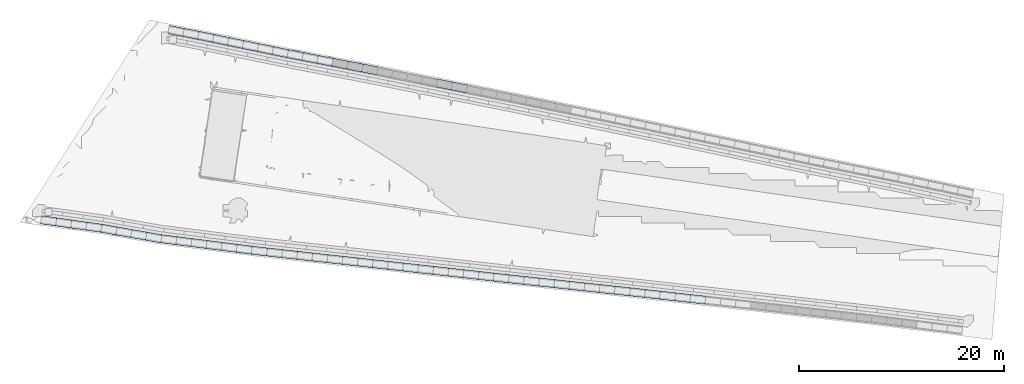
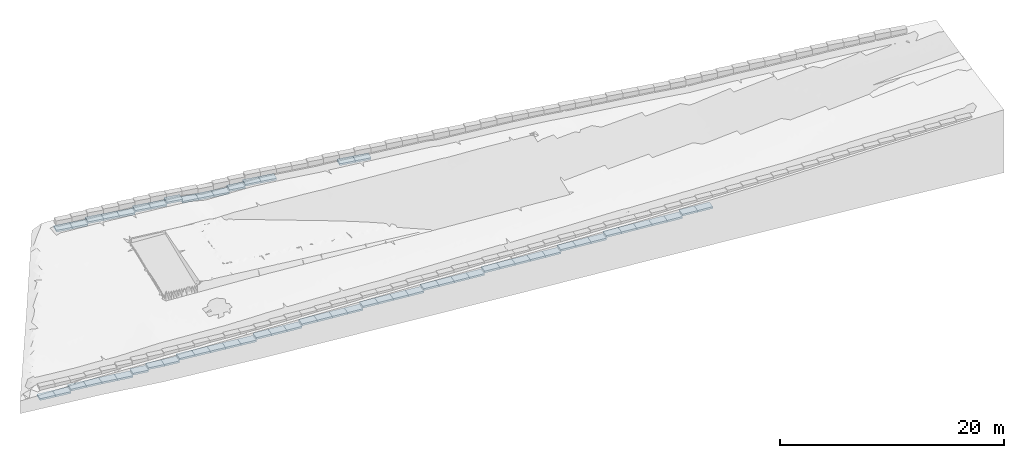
# Not in any storey, part 1 of 7: 60 footings.
"""IFC4 model written with IfcOpenShell, lengths in metres."""

from ifc_helpers import new_model, si_unit, direction, frame, origin_with_axes, place, context, subcontext, project, spatial, polyline, outline, extrude, material, element, save


model = new_model("IFC4")

# Units and contexts
model_context = context("Model", 3, precision=1e-05, world=origin_with_axes(), true_north=direction((0.0, 1.0)))
body_context = subcontext(model_context, "Body", "Model", "MODEL_VIEW")
ifc_project = project(units=[si_unit("VOLUMEUNIT", "CUBIC_METRE"), si_unit("LENGTHUNIT", "METRE"), si_unit("AREAUNIT", "SQUARE_METRE")], contexts=[model_context])

# Site
site_placement = place(None, origin_with_axes())
site = spatial("IfcSite", under=ifc_project, at=site_placement, Name="Lares · Rua das Mercês · artigo 4771")

# Footings
ifc_material = material(Name="Betão armado / Stahlbeton", Category="concrete")
footing_1_placement = place(site_placement, frame((0.0, 0.0, 12.55), z_axis=(0.0, 0.0, 1.0), x_axis=(1.0, -1.03767253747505e-17, 0.0)))
element("IfcFooting", 1, at=footing_1_placement, inside=site, material=ifc_material, Name="Limite north · base 01", PredefinedType="STRIP_FOOTING", context=body_context, shape_type="SweptSolid", body=[
    extrude(outline(polyline([(3.91251872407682, 23.8101235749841), (3.75898388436, 23.0249948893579), (2.30399909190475, 23.3095225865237), (2.45753393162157, 24.0946512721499), (3.91251872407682, 23.8101235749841)])), origin_with_axes(), (0.0, 0.0, 1.0), 0.2),
])
footing_2_placement = place(site_placement, frame((0.0, 0.0, 12.55), z_axis=(0.0, 0.0, 1.0), x_axis=(1.0, -1.03767253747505e-17, 0.0)))
element("IfcFooting", 2, at=footing_2_placement, inside=site, material=ifc_material, Name="Limite north · base 02", PredefinedType="STRIP_FOOTING", context=body_context, shape_type="SweptSolid", body=[
    extrude(outline(polyline([(5.36750351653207, 23.5255958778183), (5.21396867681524, 22.7404671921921), (3.75898388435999, 23.0249948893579), (3.91251872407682, 23.8101235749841), (5.36750351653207, 23.5255958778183)])), origin_with_axes(), (0.0, 0.0, 1.0), 0.2),
])
footing_3_placement = place(site_placement, frame((0.0, 0.0, 12.8), z_axis=(0.0, 0.0, 1.0), x_axis=(1.0, -1.03767253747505e-17, 0.0)))
element("IfcFooting", 3, at=footing_3_placement, inside=site, material=ifc_material, Name="Limite north · base 03", PredefinedType="STRIP_FOOTING", context=body_context, shape_type="SweptSolid", body=[
    extrude(outline(polyline([(5.83589335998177, 23.4340004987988), (5.83969890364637, 23.4332371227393), (6.82437533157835, 23.2307406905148), (6.66322940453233, 22.4471387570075), (5.68045389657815, 22.6492442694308), (5.21396867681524, 22.7404671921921), (5.36750351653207, 23.5255958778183), (5.83589335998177, 23.4340004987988)])), origin_with_axes(), (0.0, 0.0, 1.0), 0.2),
])
footing_4_placement = place(site_placement, frame((0.0, 0.0, 12.8), z_axis=(0.0, 0.0, 1.0), x_axis=(1.0, -1.03767253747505e-17, 0.0)))
element("IfcFooting", 4, at=footing_4_placement, inside=site, material=ifc_material, Name="Limite north · base 04", PredefinedType="STRIP_FOOTING", context=body_context, shape_type="SweptSolid", body=[
    extrude(outline(polyline([(8.27653077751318, 22.9321082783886), (8.11538485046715, 22.1485063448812), (6.66322940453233, 22.4471387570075), (6.82437533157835, 23.2307406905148), (8.27653077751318, 22.9321082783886)])), origin_with_axes(), (0.0, 0.0, 1.0), 0.2),
])
footing_5_placement = place(site_placement, frame((0.0, 0.0, 12.8), z_axis=(0.0, 0.0, 1.0), x_axis=(1.0, -1.03767253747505e-17, 0.0)))
element("IfcFooting", 5, at=footing_5_placement, inside=site, material=ifc_material, Name="Limite north · base 05", PredefinedType="STRIP_FOOTING", context=body_context, shape_type="SweptSolid", body=[
    extrude(outline(polyline([(9.728686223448, 22.6334758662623), (9.56754029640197, 21.849873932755), (8.11538485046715, 22.1485063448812), (8.27653077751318, 22.9321082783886), (9.728686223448, 22.6334758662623)])), origin_with_axes(), (0.0, 0.0, 1.0), 0.2),
])
footing_6_placement = place(site_placement, frame((0.0, 0.0, 13.05), z_axis=(0.0, 0.0, 1.0), x_axis=(1.0, -1.03767253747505e-17, 0.0)))
element("IfcFooting", 6, at=footing_6_placement, inside=site, material=ifc_material, Name="Limite north · base 06", PredefinedType="STRIP_FOOTING", context=body_context, shape_type="SweptSolid", body=[
    extrude(outline(polyline([(11.1808416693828, 22.3348434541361), (11.0196957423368, 21.5512415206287), (9.56754029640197, 21.849873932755), (9.728686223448, 22.6334758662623), (11.1808416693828, 22.3348434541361)])), origin_with_axes(), (0.0, 0.0, 1.0), 0.2),
])
footing_7_placement = place(site_placement, frame((0.0, 0.0, 13.05), z_axis=(0.0, 0.0, 1.0), x_axis=(1.0, -1.03767253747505e-17, 0.0)))
element("IfcFooting", 7, at=footing_7_placement, inside=site, material=ifc_material, Name="Limite north · base 07", PredefinedType="STRIP_FOOTING", context=body_context, shape_type="SweptSolid", body=[
    extrude(outline(polyline([(12.6329971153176, 22.0362110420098), (12.4718511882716, 21.2526091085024), (11.0196957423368, 21.5512415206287), (11.1808416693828, 22.3348434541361), (12.6329971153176, 22.0362110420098)])), origin_with_axes(), (0.0, 0.0, 1.0), 0.2),
])
footing_8_placement = place(site_placement, frame((0.0, 0.0, 13.3), z_axis=(0.0, 0.0, 1.0), x_axis=(1.0, -1.03767253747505e-17, 0.0)))
element("IfcFooting", 8, at=footing_8_placement, inside=site, material=ifc_material, Name="Limite north · base 08", PredefinedType="STRIP_FOOTING", context=body_context, shape_type="SweptSolid", body=[
    extrude(outline(polyline([(13.9723268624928, 21.76078097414), (14.0804053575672, 21.7399952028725), (13.9293173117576, 20.9543919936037), (13.8187211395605, 20.9756619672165), (13.8136921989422, 20.9766626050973), (12.4718511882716, 21.2526091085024), (12.6329971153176, 22.0362110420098), (13.9723268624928, 21.76078097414)])), origin_with_axes(), (0.0, 0.0, 1.0), 0.2),
])
footing_9_placement = place(site_placement, frame((0.0, 0.0, 13.05), z_axis=(0.0, 0.0, 1.0), x_axis=(1.0, -1.03767253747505e-17, 0.0)))
element("IfcFooting", 9, at=footing_9_placement, inside=site, material=ifc_material, Name="Limite north · base 09", PredefinedType="STRIP_FOOTING", context=body_context, shape_type="SweptSolid", body=[
    extrude(outline(polyline([(15.5362695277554, 21.4600018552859), (15.3851814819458, 20.6743986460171), (13.9293173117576, 20.9543919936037), (14.0804053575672, 21.7399952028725), (15.5362695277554, 21.4600018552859)])), origin_with_axes(), (0.0, 0.0, 1.0), 0.2),
])
footing_10_placement = place(site_placement, frame((0.0, 0.0, 13.05), z_axis=(0.0, 0.0, 1.0), x_axis=(1.0, -1.03767253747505e-17, 0.0)))
element("IfcFooting", 10, at=footing_10_placement, inside=site, material=ifc_material, Name="Limite north · base 10", PredefinedType="STRIP_FOOTING", context=body_context, shape_type="SweptSolid", body=[
    extrude(outline(polyline([(16.9921336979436, 21.1800085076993), (16.841045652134, 20.3944052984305), (15.3851814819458, 20.6743986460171), (15.5362695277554, 21.4600018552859), (16.9921336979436, 21.1800085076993)])), origin_with_axes(), (0.0, 0.0, 1.0), 0.2),
])
footing_11_placement = place(site_placement, frame((0.0, 0.0, 13.05), z_axis=(0.0, 0.0, 1.0), x_axis=(1.0, -1.03767253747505e-17, 0.0)))
element("IfcFooting", 11, at=footing_11_placement, inside=site, material=ifc_material, Name="Limite north · base 11", PredefinedType="STRIP_FOOTING", context=body_context, shape_type="SweptSolid", body=[
    extrude(outline(polyline([(18.4479978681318, 20.9000151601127), (18.2969098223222, 20.1144119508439), (16.841045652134, 20.3944052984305), (16.9921336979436, 21.1800085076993), (18.4479978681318, 20.9000151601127)])), origin_with_axes(), (0.0, 0.0, 1.0), 0.2),
])
footing_12_placement = place(site_placement, frame((0.0, 0.0, 13.3), z_axis=(0.0, 0.0, 1.0), x_axis=(1.0, -1.03767253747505e-17, 0.0)))
element("IfcFooting", 12, at=footing_12_placement, inside=site, material=ifc_material, Name="Limite north · base 12", PredefinedType="STRIP_FOOTING", context=body_context, shape_type="SweptSolid", body=[
    extrude(outline(polyline([(19.90386203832, 20.6200218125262), (19.7527739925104, 19.8344186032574), (18.2969098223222, 20.1144119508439), (18.4479978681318, 20.9000151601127), (19.90386203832, 20.6200218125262)])), origin_with_axes(), (0.0, 0.0, 1.0), 0.2),
])
footing_13_placement = place(site_placement, frame((0.0, 0.0, 13.55), z_axis=(0.0, 0.0, 1.0), x_axis=(1.0, -1.03767253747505e-17, 0.0)))
element("IfcFooting", 13, at=footing_13_placement, inside=site, material=ifc_material, Name="Limite north · base 13", PredefinedType="STRIP_FOOTING", context=body_context, shape_type="SweptSolid", body=[
    extrude(outline(polyline([(21.3597262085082, 20.3400284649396), (21.2086381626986, 19.5544252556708), (19.7527739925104, 19.8344186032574), (19.90386203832, 20.6200218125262), (21.3597262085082, 20.3400284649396)])), origin_with_axes(), (0.0, 0.0, 1.0), 0.2),
])
footing_14_placement = place(site_placement, frame((0.0, 0.0, 13.55), z_axis=(0.0, 0.0, 1.0), x_axis=(1.0, -1.03767253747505e-17, 0.0)))
element("IfcFooting", 14, at=footing_14_placement, inside=site, material=ifc_material, Name="Limite north · base 14", PredefinedType="STRIP_FOOTING", context=body_context, shape_type="SweptSolid", body=[
    extrude(outline(polyline([(22.0237974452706, 20.212313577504), (22.0276824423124, 20.2115464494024), (22.8179290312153, 20.0514367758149), (22.6590709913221, 19.2673678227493), (21.8707650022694, 19.4270843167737), (21.2086381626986, 19.5544252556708), (21.3597262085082, 20.3400284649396), (22.0237974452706, 20.212313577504)])), origin_with_axes(), (0.0, 0.0, 1.0), 0.2),
])
footing_15_placement = place(site_placement, frame((0.0, 0.0, 13.8), z_axis=(0.0, 0.0, 1.0), x_axis=(1.0, -1.03767253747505e-17, 0.0)))
element("IfcFooting", 15, at=footing_15_placement, inside=site, material=ifc_material, Name="Limite north · base 19", PredefinedType="STRIP_FOOTING", context=body_context, shape_type="SweptSolid", body=[
    extrude(outline(polyline([(30.0832415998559, 18.5865666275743), (29.9267249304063, 17.8020269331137), (28.4728316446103, 18.0920804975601), (28.62934831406, 18.8766201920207), (30.0832415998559, 18.5865666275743)])), origin_with_axes(), (0.0, 0.0, 1.0), 0.2),
])
footing_16_placement = place(site_placement, frame((0.0, 0.0, 13.8), z_axis=(0.0, 0.0, 1.0), x_axis=(1.0, -1.03767253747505e-17, 0.0)))
element("IfcFooting", 16, at=footing_16_placement, inside=site, material=ifc_material, Name="Limite north · base 20", PredefinedType="STRIP_FOOTING", context=body_context, shape_type="SweptSolid", body=[
    extrude(outline(polyline([(31.5371348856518, 18.296513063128), (31.3806182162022, 17.5119733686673), (29.9267249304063, 17.8020269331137), (30.0832415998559, 18.5865666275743), (31.5371348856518, 18.296513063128)])), origin_with_axes(), (0.0, 0.0, 1.0), 0.2),
])
footing_17_placement = place(site_placement, frame((0.0, 0.0, 9.8), z_axis=(0.0, 0.0, 1.0), x_axis=(1.0, -1.03767253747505e-17, 0.0)))
element("IfcFooting", 17, at=footing_17_placement, inside=site, material=ifc_material, Name="Limite south · base 01", PredefinedType="STRIP_FOOTING", context=body_context, shape_type="SweptSolid", body=[
    extrude(outline(polyline([(-8.52422396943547, 5.33421471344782), (-8.63569927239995, 4.5420194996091), (-10.1048103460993, 4.74874834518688), (-9.99333504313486, 5.5409435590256), (-8.52422396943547, 5.33421471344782)])), origin_with_axes(), (0.0, 0.0, 1.0), 0.2),
])
footing_18_placement = place(site_placement, frame((0.0, 0.0, 9.8), z_axis=(0.0, 0.0, 1.0), x_axis=(1.0, -1.03767253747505e-17, 0.0)))
element("IfcFooting", 18, at=footing_18_placement, inside=site, material=ifc_material, Name="Limite south · base 02", PredefinedType="STRIP_FOOTING", context=body_context, shape_type="SweptSolid", body=[
    extrude(outline(polyline([(-7.05511289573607, 5.12748586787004), (-7.16658819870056, 4.33529065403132), (-8.63569927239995, 4.5420194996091), (-8.52422396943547, 5.33421471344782), (-7.05511289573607, 5.12748586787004)])), origin_with_axes(), (0.0, 0.0, 1.0), 0.2),
])
footing_19_placement = place(site_placement, frame((0.0, 0.0, 10.05), z_axis=(0.0, 0.0, 1.0), x_axis=(1.0, -1.03767253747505e-17, 0.0)))
element("IfcFooting", 19, at=footing_19_placement, inside=site, material=ifc_material, Name="Limite south · base 03", PredefinedType="STRIP_FOOTING", context=body_context, shape_type="SweptSolid", body=[
    extrude(outline(polyline([(-5.58600182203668, 4.92075702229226), (-5.69747712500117, 4.12856180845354), (-7.16658819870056, 4.33529065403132), (-7.05511289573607, 5.12748586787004), (-5.58600182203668, 4.92075702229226)])), origin_with_axes(), (0.0, 0.0, 1.0), 0.2),
])
footing_20_placement = place(site_placement, frame((0.0, 0.0, 10.05), z_axis=(0.0, 0.0, 1.0), x_axis=(1.0, -1.03767253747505e-17, 0.0)))
element("IfcFooting", 20, at=footing_20_placement, inside=site, material=ifc_material, Name="Limite south · base 04", PredefinedType="STRIP_FOOTING", context=body_context, shape_type="SweptSolid", body=[
    extrude(outline(polyline([(-4.11689074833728, 4.71402817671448), (-4.22836605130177, 3.92183296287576), (-5.69747712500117, 4.12856180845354), (-5.58600182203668, 4.92075702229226), (-4.11689074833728, 4.71402817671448)])), origin_with_axes(), (0.0, 0.0, 1.0), 0.2),
])
footing_21_placement = place(site_placement, frame((0.0, 0.0, 10.05), z_axis=(0.0, 0.0, 1.0), x_axis=(1.0, -1.03767253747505e-17, 0.0)))
element("IfcFooting", 21, at=footing_21_placement, inside=site, material=ifc_material, Name="Limite south · base 05", PredefinedType="STRIP_FOOTING", context=body_context, shape_type="SweptSolid", body=[
    extrude(outline(polyline([(-4.22767204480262, 3.92676489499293), (-4.11689074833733, 4.71402817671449), (-4.11449838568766, 4.71369153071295), (-4.1006826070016, 4.71150041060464), (-2.64207744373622, 4.45394945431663), (-2.78118430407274, 3.66613648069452), (-4.23978946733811, 3.92368743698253), (-4.23893078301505, 3.92855048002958), (-4.22767204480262, 3.92676489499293)])), origin_with_axes(), (0.0, 0.0, 1.0), 0.2),
])
footing_22_placement = place(site_placement, frame((0.0, 0.0, 10.05), z_axis=(0.0, 0.0, 1.0), x_axis=(1.0, -1.03767253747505e-17, 0.0)))
element("IfcFooting", 22, at=footing_22_placement, inside=site, material=ifc_material, Name="Limite south · base 06", PredefinedType="STRIP_FOOTING", context=body_context, shape_type="SweptSolid", body=[
    extrude(outline(polyline([(-1.18109315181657, 4.19597840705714), (-1.32020001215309, 3.40816543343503), (-2.78118430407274, 3.66613648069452), (-2.64207744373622, 4.45394945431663), (-1.18109315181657, 4.19597840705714)])), origin_with_axes(), (0.0, 0.0, 1.0), 0.2),
])
footing_23_placement = place(site_placement, frame((0.0, 0.0, 10.3), z_axis=(0.0, 0.0, 1.0), x_axis=(1.0, -1.03767253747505e-17, 0.0)))
element("IfcFooting", 23, at=footing_23_placement, inside=site, material=ifc_material, Name="Limite south · base 07", PredefinedType="STRIP_FOOTING", context=body_context, shape_type="SweptSolid", body=[
    extrude(outline(polyline([(0.279891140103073, 3.93800735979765), (0.140784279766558, 3.15019438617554), (-1.32020001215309, 3.40816543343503), (-1.18109315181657, 4.19597840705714), (0.279891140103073, 3.93800735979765)])), origin_with_axes(), (0.0, 0.0, 1.0), 0.2),
])
footing_24_placement = place(site_placement, frame((0.0, 0.0, 10.55), z_axis=(0.0, 0.0, 1.0), x_axis=(1.0, -1.03767253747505e-17, 0.0)))
element("IfcFooting", 24, at=footing_24_placement, inside=site, material=ifc_material, Name="Limite south · base 08", PredefinedType="STRIP_FOOTING", context=body_context, shape_type="SweptSolid", body=[
    extrude(outline(polyline([(1.60424499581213, 3.70416162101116), (1.72250985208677, 3.68918759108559), (1.62202063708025, 2.89552398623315), (1.49406565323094, 2.91172492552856), (1.47475683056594, 2.91465024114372), (0.140784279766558, 3.15019438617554), (0.279891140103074, 3.93800735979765), (1.60424499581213, 3.70416162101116)])), origin_with_axes(), (0.0, 0.0, 1.0), 0.2),
])
footing_25_placement = place(site_placement, frame((0.0, 0.0, 10.55), z_axis=(0.0, 0.0, 1.0), x_axis=(1.0, -1.03767253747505e-17, 0.0)))
element("IfcFooting", 25, at=footing_25_placement, inside=site, material=ifc_material, Name="Limite south · base 09", PredefinedType="STRIP_FOOTING", context=body_context, shape_type="SweptSolid", body=[
    extrude(outline(polyline([(3.19434402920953, 3.50283223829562), (3.09385481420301, 2.70916863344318), (1.62202063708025, 2.89552398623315), (1.72250985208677, 3.68918759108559), (3.19434402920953, 3.50283223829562)])), origin_with_axes(), (0.0, 0.0, 1.0), 0.2),
])
footing_26_placement = place(site_placement, frame((0.0, 0.0, 10.8), z_axis=(0.0, 0.0, 1.0), x_axis=(1.0, -1.03767253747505e-17, 0.0)))
element("IfcFooting", 26, at=footing_26_placement, inside=site, material=ifc_material, Name="Limite south · base 10", PredefinedType="STRIP_FOOTING", context=body_context, shape_type="SweptSolid", body=[
    extrude(outline(polyline([(4.66617820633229, 3.31647688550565), (4.56568899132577, 2.5228132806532), (3.09385481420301, 2.70916863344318), (3.19434402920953, 3.50283223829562), (4.66617820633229, 3.31647688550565)])), origin_with_axes(), (0.0, 0.0, 1.0), 0.2),
])
footing_27_placement = place(site_placement, frame((0.0, 0.0, 10.8), z_axis=(0.0, 0.0, 1.0), x_axis=(1.0, -1.03767253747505e-17, 0.0)))
element("IfcFooting", 27, at=footing_27_placement, inside=site, material=ifc_material, Name="Limite south · base 11", PredefinedType="STRIP_FOOTING", context=body_context, shape_type="SweptSolid", body=[
    extrude(outline(polyline([(6.13801238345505, 3.13012153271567), (6.03752316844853, 2.33645792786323), (4.56568899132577, 2.5228132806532), (4.66617820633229, 3.31647688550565), (6.13801238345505, 3.13012153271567)])), origin_with_axes(), (0.0, 0.0, 1.0), 0.2),
])
footing_28_placement = place(site_placement, frame((0.0, 0.0, 10.8), z_axis=(0.0, 0.0, 1.0), x_axis=(1.0, -1.03767253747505e-17, 0.0)))
element("IfcFooting", 28, at=footing_28_placement, inside=site, material=ifc_material, Name="Limite south · base 12", PredefinedType="STRIP_FOOTING", context=body_context, shape_type="SweptSolid", body=[
    extrude(outline(polyline([(7.60984656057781, 2.9437661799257), (7.50935734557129, 2.15010257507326), (6.03752316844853, 2.33645792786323), (6.13801238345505, 3.13012153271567), (7.60984656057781, 2.9437661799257)])), origin_with_axes(), (0.0, 0.0, 1.0), 0.2),
])
footing_29_placement = place(site_placement, frame((0.0, 0.0, 10.8), z_axis=(0.0, 0.0, 1.0), x_axis=(1.0, -1.03767253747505e-17, 0.0)))
element("IfcFooting", 29, at=footing_29_placement, inside=site, material=ifc_material, Name="Limite south · base 13", PredefinedType="STRIP_FOOTING", context=body_context, shape_type="SweptSolid", body=[
    extrude(outline(polyline([(9.08168073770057, 2.75741082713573), (8.98119152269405, 1.96374722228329), (7.50935734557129, 2.15010257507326), (7.60984656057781, 2.9437661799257), (9.08168073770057, 2.75741082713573)])), origin_with_axes(), (0.0, 0.0, 1.0), 0.2),
])
footing_30_placement = place(site_placement, frame((0.0, 0.0, 10.8), z_axis=(0.0, 0.0, 1.0), x_axis=(1.0, -1.03767253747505e-17, 0.0)))
element("IfcFooting", 30, at=footing_30_placement, inside=site, material=ifc_material, Name="Limite south · base 14", PredefinedType="STRIP_FOOTING", context=body_context, shape_type="SweptSolid", body=[
    extrude(outline(polyline([(10.5535149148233, 2.57105547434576), (10.4530256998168, 1.77739186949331), (8.98119152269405, 1.96374722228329), (9.08168073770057, 2.75741082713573), (10.5535149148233, 2.57105547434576)])), origin_with_axes(), (0.0, 0.0, 1.0), 0.2),
])
footing_31_placement = place(site_placement, frame((0.0, 0.0, 11.05), z_axis=(0.0, 0.0, 1.0), x_axis=(1.0, -1.03767253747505e-17, 0.0)))
element("IfcFooting", 31, at=footing_31_placement, inside=site, material=ifc_material, Name="Limite south · base 15", PredefinedType="STRIP_FOOTING", context=body_context, shape_type="SweptSolid", body=[
    extrude(outline(polyline([(11.1594256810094, 2.49433846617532), (12.0205889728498, 2.39939597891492), (11.9329208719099, 1.60421404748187), (11.0685492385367, 1.69951025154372), (11.0621386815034, 1.70026941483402), (10.4530256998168, 1.77739186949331), (10.5535149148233, 2.57105547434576), (11.1594256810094, 2.49433846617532)])), origin_with_axes(), (0.0, 0.0, 1.0), 0.2),
])
footing_32_placement = place(site_placement, frame((0.0, 0.0, 11.05), z_axis=(0.0, 0.0, 1.0), x_axis=(1.0, -1.03767253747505e-17, 0.0)))
element("IfcFooting", 32, at=footing_32_placement, inside=site, material=ifc_material, Name="Limite south · base 16", PredefinedType="STRIP_FOOTING", context=body_context, shape_type="SweptSolid", body=[
    extrude(outline(polyline([(13.4952388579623, 2.23681714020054), (13.4075707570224, 1.44163520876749), (11.9329208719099, 1.60421404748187), (12.0205889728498, 2.39939597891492), (13.4952388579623, 2.23681714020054)])), origin_with_axes(), (0.0, 0.0, 1.0), 0.2),
])
footing_33_placement = place(site_placement, frame((0.0, 0.0, 11.05), z_axis=(0.0, 0.0, 1.0), x_axis=(1.0, -1.03767253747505e-17, 0.0)))
element("IfcFooting", 33, at=footing_33_placement, inside=site, material=ifc_material, Name="Limite south · base 17", PredefinedType="STRIP_FOOTING", context=body_context, shape_type="SweptSolid", body=[
    extrude(outline(polyline([(14.9698887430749, 2.07423830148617), (14.882220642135, 1.27905637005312), (13.4075707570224, 1.44163520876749), (13.4952388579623, 2.23681714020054), (14.9698887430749, 2.07423830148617)])), origin_with_axes(), (0.0, 0.0, 1.0), 0.2),
])
footing_34_placement = place(site_placement, frame((0.0, 0.0, 11.3), z_axis=(0.0, 0.0, 1.0), x_axis=(1.0, -1.03767253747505e-17, 0.0)))
element("IfcFooting", 34, at=footing_34_placement, inside=site, material=ifc_material, Name="Limite south · base 18", PredefinedType="STRIP_FOOTING", context=body_context, shape_type="SweptSolid", body=[
    extrude(outline(polyline([(16.4445386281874, 1.91165946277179), (16.3568705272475, 1.11647753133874), (14.882220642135, 1.27905637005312), (14.9698887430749, 2.07423830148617), (16.4445386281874, 1.91165946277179)])), origin_with_axes(), (0.0, 0.0, 1.0), 0.2),
])
footing_35_placement = place(site_placement, frame((0.0, 0.0, 11.3), z_axis=(0.0, 0.0, 1.0), x_axis=(1.0, -1.03767253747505e-17, 0.0)))
element("IfcFooting", 35, at=footing_35_placement, inside=site, material=ifc_material, Name="Limite south · base 19", PredefinedType="STRIP_FOOTING", context=body_context, shape_type="SweptSolid", body=[
    extrude(outline(polyline([(17.9191885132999, 1.74908062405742), (17.83152041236, 0.95389869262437), (16.3568705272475, 1.11647753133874), (16.4445386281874, 1.91165946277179), (17.9191885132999, 1.74908062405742)])), origin_with_axes(), (0.0, 0.0, 1.0), 0.2),
])
footing_36_placement = place(site_placement, frame((0.0, 0.0, 11.3), z_axis=(0.0, 0.0, 1.0), x_axis=(1.0, -1.03767253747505e-17, 0.0)))
element("IfcFooting", 36, at=footing_36_placement, inside=site, material=ifc_material, Name="Limite south · base 20", PredefinedType="STRIP_FOOTING", context=body_context, shape_type="SweptSolid", body=[
    extrude(outline(polyline([(19.3938383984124, 1.58650178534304), (19.3061702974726, 0.791319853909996), (17.83152041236, 0.953898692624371), (17.9191885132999, 1.74908062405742), (19.3938383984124, 1.58650178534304)])), origin_with_axes(), (0.0, 0.0, 1.0), 0.2),
])
footing_37_placement = place(site_placement, frame((0.0, 0.0, 11.3), z_axis=(0.0, 0.0, 1.0), x_axis=(1.0, -1.03767253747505e-17, 0.0)))
element("IfcFooting", 37, at=footing_37_placement, inside=site, material=ifc_material, Name="Limite south · base 21", PredefinedType="STRIP_FOOTING", context=body_context, shape_type="SweptSolid", body=[
    extrude(outline(polyline([(20.868488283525, 1.42392294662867), (20.7808201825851, 0.628741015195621), (19.3061702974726, 0.791319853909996), (19.3938383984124, 1.58650178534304), (20.868488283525, 1.42392294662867)])), origin_with_axes(), (0.0, 0.0, 1.0), 0.2),
])
footing_38_placement = place(site_placement, frame((0.0, 0.0, 11.55), z_axis=(0.0, 0.0, 1.0), x_axis=(1.0, -1.03767253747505e-17, 0.0)))
element("IfcFooting", 38, at=footing_38_placement, inside=site, material=ifc_material, Name="Limite south · base 22", PredefinedType="STRIP_FOOTING", context=body_context, shape_type="SweptSolid", body=[
    extrude(outline(polyline([(22.3431381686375, 1.2613441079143), (22.2554700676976, 0.466162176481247), (20.7808201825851, 0.628741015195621), (20.868488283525, 1.42392294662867), (22.3431381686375, 1.2613441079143)])), origin_with_axes(), (0.0, 0.0, 1.0), 0.2),
])
footing_39_placement = place(site_placement, frame((0.0, 0.0, 11.55), z_axis=(0.0, 0.0, 1.0), x_axis=(1.0, -1.03767253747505e-17, 0.0)))
element("IfcFooting", 39, at=footing_39_placement, inside=site, material=ifc_material, Name="Limite south · base 23", PredefinedType="STRIP_FOOTING", context=body_context, shape_type="SweptSolid", body=[
    extrude(outline(polyline([(23.5522402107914, 1.12804168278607), (23.5527264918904, 1.12798776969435), (23.818238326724, 1.09838657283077), (23.729597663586, 0.303312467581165), (23.4643289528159, 0.33288655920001), (22.2554700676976, 0.466162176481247), (22.3431381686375, 1.2613441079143), (23.5522402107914, 1.12804168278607)])), origin_with_axes(), (0.0, 0.0, 1.0), 0.2),
])
footing_40_placement = place(site_placement, frame((0.0, 0.0, 11.55), z_axis=(0.0, 0.0, 1.0), x_axis=(1.0, -1.03767253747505e-17, 0.0)))
element("IfcFooting", 40, at=footing_40_placement, inside=site, material=ifc_material, Name="Limite south · base 24", PredefinedType="STRIP_FOOTING", context=body_context, shape_type="SweptSolid", body=[
    extrude(outline(polyline([(25.2926882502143, 0.934004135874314), (25.2040475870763, 0.138930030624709), (23.729597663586, 0.303312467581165), (23.818238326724, 1.09838657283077), (25.2926882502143, 0.934004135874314)])), origin_with_axes(), (0.0, 0.0, 1.0), 0.2),
])
footing_41_placement = place(site_placement, frame((0.0, 0.0, 11.55), z_axis=(0.0, 0.0, 1.0), x_axis=(1.0, -1.03767253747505e-17, 0.0)))
element("IfcFooting", 41, at=footing_41_placement, inside=site, material=ifc_material, Name="Limite south · base 25", PredefinedType="STRIP_FOOTING", context=body_context, shape_type="SweptSolid", body=[
    extrude(outline(polyline([(26.7671381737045, 0.769621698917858), (26.6784975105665, -0.0254524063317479), (25.2040475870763, 0.138930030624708), (25.2926882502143, 0.934004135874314), (26.7671381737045, 0.769621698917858)])), origin_with_axes(), (0.0, 0.0, 1.0), 0.2),
])
footing_42_placement = place(site_placement, frame((0.0, 0.0, 11.8), z_axis=(0.0, 0.0, 1.0), x_axis=(1.0, -1.03767253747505e-17, 0.0)))
element("IfcFooting", 42, at=footing_42_placement, inside=site, material=ifc_material, Name="Limite south · base 26", PredefinedType="STRIP_FOOTING", context=body_context, shape_type="SweptSolid", body=[
    extrude(outline(polyline([(28.2415880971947, 0.605239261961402), (28.1529474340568, -0.189834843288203), (26.6784975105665, -0.0254524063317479), (26.7671381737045, 0.769621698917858), (28.2415880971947, 0.605239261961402)])), origin_with_axes(), (0.0, 0.0, 1.0), 0.2),
])
footing_43_placement = place(site_placement, frame((0.0, 0.0, 11.8), z_axis=(0.0, 0.0, 1.0), x_axis=(1.0, -1.03767253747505e-17, 0.0)))
element("IfcFooting", 43, at=footing_43_placement, inside=site, material=ifc_material, Name="Limite south · base 27", PredefinedType="STRIP_FOOTING", context=body_context, shape_type="SweptSolid", body=[
    extrude(outline(polyline([(29.716038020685, 0.440856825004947), (29.627397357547, -0.354217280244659), (28.1529474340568, -0.189834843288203), (28.2415880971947, 0.605239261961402), (29.716038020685, 0.440856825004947)])), origin_with_axes(), (0.0, 0.0, 1.0), 0.2),
])
footing_44_placement = place(site_placement, frame((0.0, 0.0, 11.8), z_axis=(0.0, 0.0, 1.0), x_axis=(1.0, -1.03767253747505e-17, 0.0)))
element("IfcFooting", 44, at=footing_44_placement, inside=site, material=ifc_material, Name="Limite south · base 28", PredefinedType="STRIP_FOOTING", context=body_context, shape_type="SweptSolid", body=[
    extrude(outline(polyline([(31.1904879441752, 0.27647438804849), (31.1018472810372, -0.518599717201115), (29.627397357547, -0.354217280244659), (29.716038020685, 0.440856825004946), (31.1904879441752, 0.27647438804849)])), origin_with_axes(), (0.0, 0.0, 1.0), 0.2),
])
footing_45_placement = place(site_placement, frame((0.0, 0.0, 11.8), z_axis=(0.0, 0.0, 1.0), x_axis=(1.0, -1.03767253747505e-17, 0.0)))
element("IfcFooting", 45, at=footing_45_placement, inside=site, material=ifc_material, Name="Limite south · base 29", PredefinedType="STRIP_FOOTING", context=body_context, shape_type="SweptSolid", body=[
    extrude(outline(polyline([(32.6649378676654, 0.112091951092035), (32.5762972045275, -0.682982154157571), (31.1018472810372, -0.518599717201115), (31.1904879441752, 0.27647438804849), (32.6649378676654, 0.112091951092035)])), origin_with_axes(), (0.0, 0.0, 1.0), 0.2),
])
footing_46_placement = place(site_placement, frame((0.0, 0.0, 12.05), z_axis=(0.0, 0.0, 1.0), x_axis=(1.0, -1.03767253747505e-17, 0.0)))
element("IfcFooting", 46, at=footing_46_placement, inside=site, material=ifc_material, Name="Limite south · base 30", PredefinedType="STRIP_FOOTING", context=body_context, shape_type="SweptSolid", body=[
    extrude(outline(polyline([(34.1393877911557, -0.0522904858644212), (34.0507471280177, -0.847364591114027), (32.5762972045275, -0.682982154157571), (32.6649378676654, 0.112091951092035), (34.1393877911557, -0.0522904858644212)])), origin_with_axes(), (0.0, 0.0, 1.0), 0.2),
])
footing_47_placement = place(site_placement, frame((0.0, 0.0, 12.05), z_axis=(0.0, 0.0, 1.0), x_axis=(1.0, -1.03767253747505e-17, 0.0)))
element("IfcFooting", 47, at=footing_47_placement, inside=site, material=ifc_material, Name="Limite south · base 31", PredefinedType="STRIP_FOOTING", context=body_context, shape_type="SweptSolid", body=[
    extrude(outline(polyline([(35.2180401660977, -0.172546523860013), (35.6124711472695, -0.21498114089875), (35.5268974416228, -1.0103911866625), (35.1316995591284, -0.967874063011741), (35.1301660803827, -0.96770609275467), (34.0507471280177, -0.847364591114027), (34.1393877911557, -0.0522904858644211), (35.2180401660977, -0.172546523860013)])), origin_with_axes(), (0.0, 0.0, 1.0), 0.2),
])
footing_48_placement = place(site_placement, frame((0.0, 0.0, 12.05), z_axis=(0.0, 0.0, 1.0), x_axis=(1.0, -1.03767253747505e-17, 0.0)))
element("IfcFooting", 48, at=footing_48_placement, inside=site, material=ifc_material, Name="Limite south · base 32", PredefinedType="STRIP_FOOTING", context=body_context, shape_type="SweptSolid", body=[
    extrude(outline(polyline([(37.0875440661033, -0.373675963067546), (37.0019703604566, -1.16908600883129), (35.5268974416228, -1.0103911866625), (35.6124711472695, -0.21498114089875), (37.0875440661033, -0.373675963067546)])), origin_with_axes(), (0.0, 0.0, 1.0), 0.2),
])
footing_49_placement = place(site_placement, frame((0.0, 0.0, 12.05), z_axis=(0.0, 0.0, 1.0), x_axis=(1.0, -1.03767253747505e-17, 0.0)))
element("IfcFooting", 49, at=footing_49_placement, inside=site, material=ifc_material, Name="Limite south · base 33", PredefinedType="STRIP_FOOTING", context=body_context, shape_type="SweptSolid", body=[
    extrude(outline(polyline([(38.5626169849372, -0.532370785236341), (38.4770432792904, -1.32778083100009), (37.0019703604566, -1.16908600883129), (37.0875440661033, -0.373675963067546), (38.5626169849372, -0.532370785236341)])), origin_with_axes(), (0.0, 0.0, 1.0), 0.2),
])
footing_50_placement = place(site_placement, frame((0.0, 0.0, 12.05), z_axis=(0.0, 0.0, 1.0), x_axis=(1.0, -1.03767253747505e-17, 0.0)))
element("IfcFooting", 50, at=footing_50_placement, inside=site, material=ifc_material, Name="Limite south · base 34", PredefinedType="STRIP_FOOTING", context=body_context, shape_type="SweptSolid", body=[
    extrude(outline(polyline([(40.037689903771, -0.691065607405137), (39.9521161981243, -1.48647565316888), (38.4770432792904, -1.32778083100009), (38.5626169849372, -0.532370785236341), (40.037689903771, -0.691065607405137)])), origin_with_axes(), (0.0, 0.0, 1.0), 0.2),
])
footing_51_placement = place(site_placement, frame((0.0, 0.0, 12.3), z_axis=(0.0, 0.0, 1.0), x_axis=(1.0, -1.03767253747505e-17, 0.0)))
element("IfcFooting", 51, at=footing_51_placement, inside=site, material=ifc_material, Name="Limite south · base 35", PredefinedType="STRIP_FOOTING", context=body_context, shape_type="SweptSolid", body=[
    extrude(outline(polyline([(41.5127628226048, -0.849760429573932), (41.4271891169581, -1.64517047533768), (39.9521161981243, -1.48647565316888), (40.037689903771, -0.691065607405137), (41.5127628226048, -0.849760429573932)])), origin_with_axes(), (0.0, 0.0, 1.0), 0.2),
])
footing_52_placement = place(site_placement, frame((0.0, 0.0, 12.3), z_axis=(0.0, 0.0, 1.0), x_axis=(1.0, -1.03767253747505e-17, 0.0)))
element("IfcFooting", 52, at=footing_52_placement, inside=site, material=ifc_material, Name="Limite south · base 36", PredefinedType="STRIP_FOOTING", context=body_context, shape_type="SweptSolid", body=[
    extrude(outline(polyline([(42.9878357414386, -1.00845525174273), (42.9022620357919, -1.80386529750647), (41.4271891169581, -1.64517047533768), (41.5127628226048, -0.849760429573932), (42.9878357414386, -1.00845525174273)])), origin_with_axes(), (0.0, 0.0, 1.0), 0.2),
])
footing_53_placement = place(site_placement, frame((0.0, 0.0, 12.3), z_axis=(0.0, 0.0, 1.0), x_axis=(1.0, -1.03767253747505e-17, 0.0)))
element("IfcFooting", 53, at=footing_53_placement, inside=site, material=ifc_material, Name="Limite south · base 37", PredefinedType="STRIP_FOOTING", context=body_context, shape_type="SweptSolid", body=[
    extrude(outline(polyline([(44.4629086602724, -1.16715007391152), (44.3773349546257, -1.96256011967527), (42.9022620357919, -1.80386529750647), (42.9878357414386, -1.00845525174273), (44.4629086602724, -1.16715007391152)])), origin_with_axes(), (0.0, 0.0, 1.0), 0.2),
])
footing_54_placement = place(site_placement, frame((0.0, 0.0, 12.55), z_axis=(0.0, 0.0, 1.0), x_axis=(1.0, -1.03767253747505e-17, 0.0)))
element("IfcFooting", 54, at=footing_54_placement, inside=site, material=ifc_material, Name="Limite south · base 38", PredefinedType="STRIP_FOOTING", context=body_context, shape_type="SweptSolid", body=[
    extrude(outline(polyline([(45.9379815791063, -1.32584489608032), (45.8524078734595, -2.12125494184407), (44.3773349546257, -1.96256011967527), (44.4629086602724, -1.16715007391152), (45.9379815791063, -1.32584489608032)])), origin_with_axes(), (0.0, 0.0, 1.0), 0.2),
])
footing_55_placement = place(site_placement, frame((0.0, 0.0, 12.55), z_axis=(0.0, 0.0, 1.0), x_axis=(1.0, -1.03767253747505e-17, 0.0)))
element("IfcFooting", 55, at=footing_55_placement, inside=site, material=ifc_material, Name="Limite south · base 39", PredefinedType="STRIP_FOOTING", context=body_context, shape_type="SweptSolid", body=[
    extrude(outline(polyline([(47.2207516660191, -1.46385093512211), (47.2221083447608, -1.46399923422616), (47.4143394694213, -1.48534401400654), (47.3260524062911, -2.2804574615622), (47.1344994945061, -2.25918798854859), (45.8524078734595, -2.12125494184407), (45.9379815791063, -1.32584489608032), (47.2207516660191, -1.46385093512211)])), origin_with_axes(), (0.0, 0.0, 1.0), 0.2),
])
footing_56_placement = place(site_placement, frame((0.0, 0.0, 12.55), z_axis=(0.0, 0.0, 1.0), x_axis=(1.0, -1.03767253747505e-17, 0.0)))
element("IfcFooting", 56, at=footing_56_placement, inside=site, material=ifc_material, Name="Limite south · base 40", PredefinedType="STRIP_FOOTING", context=body_context, shape_type="SweptSolid", body=[
    extrude(outline(polyline([(48.8888623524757, -1.64907070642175), (48.8005752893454, -2.44418415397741), (47.3260524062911, -2.2804574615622), (47.4143394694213, -1.48534401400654), (48.8888623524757, -1.64907070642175)])), origin_with_axes(), (0.0, 0.0, 1.0), 0.2),
])
footing_57_placement = place(site_placement, frame((0.0, 0.0, 12.55), z_axis=(0.0, 0.0, 1.0), x_axis=(1.0, -1.03767253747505e-17, 0.0)))
element("IfcFooting", 57, at=footing_57_placement, inside=site, material=ifc_material, Name="Limite south · base 41", PredefinedType="STRIP_FOOTING", context=body_context, shape_type="SweptSolid", body=[
    extrude(outline(polyline([(50.36338523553, -1.81279739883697), (50.2750981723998, -2.60791084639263), (48.8005752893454, -2.44418415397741), (48.8888623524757, -1.64907070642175), (50.36338523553, -1.81279739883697)])), origin_with_axes(), (0.0, 0.0, 1.0), 0.2),
])
footing_58_placement = place(site_placement, frame((0.0, 0.0, 12.55), z_axis=(0.0, 0.0, 1.0), x_axis=(1.0, -1.03767253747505e-17, 0.0)))
element("IfcFooting", 58, at=footing_58_placement, inside=site, material=ifc_material, Name="Limite south · base 42", PredefinedType="STRIP_FOOTING", context=body_context, shape_type="SweptSolid", body=[
    extrude(outline(polyline([(51.8379081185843, -1.97652409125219), (51.7496210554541, -2.77163753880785), (50.2750981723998, -2.60791084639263), (50.36338523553, -1.81279739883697), (51.8379081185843, -1.97652409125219)])), origin_with_axes(), (0.0, 0.0, 1.0), 0.2),
])
footing_59_placement = place(site_placement, frame((0.0, 0.0, 12.8), z_axis=(0.0, 0.0, 1.0), x_axis=(1.0, -1.03767253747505e-17, 0.0)))
element("IfcFooting", 59, at=footing_59_placement, inside=site, material=ifc_material, Name="Limite south · base 43", PredefinedType="STRIP_FOOTING", context=body_context, shape_type="SweptSolid", body=[
    extrude(outline(polyline([(53.3124310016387, -2.1402507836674), (53.2241439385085, -2.93536423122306), (51.7496210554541, -2.77163753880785), (51.8379081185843, -1.97652409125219), (53.3124310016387, -2.1402507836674)])), origin_with_axes(), (0.0, 0.0, 1.0), 0.2),
])
footing_60_placement = place(site_placement, frame((0.0, 0.0, 12.8), z_axis=(0.0, 0.0, 1.0), x_axis=(1.0, -1.03767253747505e-17, 0.0)))
element("IfcFooting", 60, at=footing_60_placement, inside=site, material=ifc_material, Name="Limite south · base 44", PredefinedType="STRIP_FOOTING", context=body_context, shape_type="SweptSolid", body=[
    extrude(outline(polyline([(54.786953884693, -2.30397747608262), (54.6986668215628, -3.09909092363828), (53.2241439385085, -2.93536423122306), (53.3124310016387, -2.1402507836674), (54.786953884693, -2.30397747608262)])), origin_with_axes(), (0.0, 0.0, 1.0), 0.2),
])

save(model, "model.ifc")
